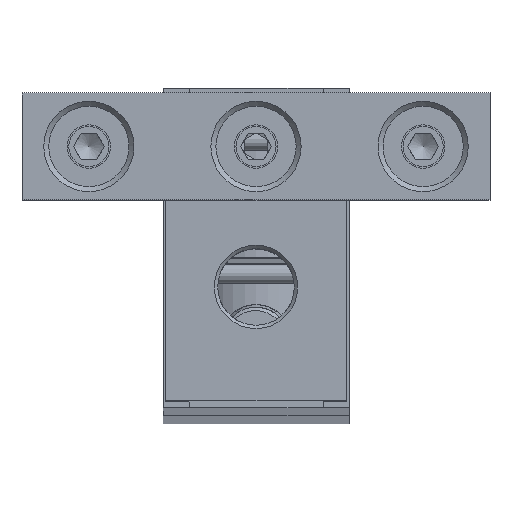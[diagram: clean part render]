
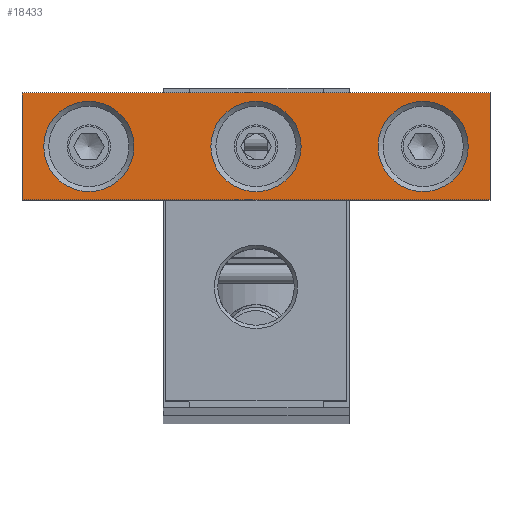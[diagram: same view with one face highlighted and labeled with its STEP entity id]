
A CAD part, top view. The second image highlights one B-rep face of the part: STEP entity #18433.
In plain terms, the highlighted planar face has unit normal (0, 0, 1).
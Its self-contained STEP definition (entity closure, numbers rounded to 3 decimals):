
#1223=LINE('',#35262,#2072);
#1256=LINE('',#35430,#2105);
#1259=LINE('',#35434,#2108);
#1261=LINE('',#35437,#2110);
#2072=VECTOR('',#25166,10.);
#2105=VECTOR('',#25337,10.);
#2108=VECTOR('',#25342,10.);
#2110=VECTOR('',#25346,10.);
#2865=FACE_BOUND('',#4798,.T.);
#2866=FACE_BOUND('',#4799,.T.);
#2867=FACE_BOUND('',#4800,.T.);
#3624=FACE_OUTER_BOUND('',#4797,.T.);
#4797=EDGE_LOOP('',(#14920,#14921,#14922,#14923));
#4798=EDGE_LOOP('',(#14924));
#4799=EDGE_LOOP('',(#14925));
#4800=EDGE_LOOP('',(#14926));
#6200=CIRCLE('',#20595,6.75);
#6202=CIRCLE('',#20599,6.75);
#6205=CIRCLE('',#20604,6.75);
#7935=VERTEX_POINT('',#35259);
#7936=VERTEX_POINT('',#35261);
#7979=VERTEX_POINT('',#35427);
#7980=VERTEX_POINT('',#35429);
#7983=VERTEX_POINT('',#35445);
#7985=VERTEX_POINT('',#35453);
#7988=VERTEX_POINT('',#35463);
#10333=EDGE_CURVE('',#7936,#7935,#1223,.T.);
#10408=EDGE_CURVE('',#7980,#7979,#1256,.T.);
#10411=EDGE_CURVE('',#7979,#7936,#1259,.T.);
#10413=EDGE_CURVE('',#7935,#7980,#1261,.T.);
#10417=EDGE_CURVE('',#7983,#7983,#6200,.T.);
#10421=EDGE_CURVE('',#7985,#7985,#6202,.T.);
#10426=EDGE_CURVE('',#7988,#7988,#6205,.T.);
#14920=ORIENTED_EDGE('',*,*,#10408,.T.);
#14921=ORIENTED_EDGE('',*,*,#10411,.T.);
#14922=ORIENTED_EDGE('',*,*,#10333,.T.);
#14923=ORIENTED_EDGE('',*,*,#10413,.T.);
#14924=ORIENTED_EDGE('',*,*,#10421,.F.);
#14925=ORIENTED_EDGE('',*,*,#10417,.F.);
#14926=ORIENTED_EDGE('',*,*,#10426,.F.);
#16585=PLANE('',#20603);
#18433=ADVANCED_FACE('',(#3624,#2865,#2866,#2867),#16585,.T.);
#20595=AXIS2_PLACEMENT_3D('',#35446,#25356,#25357);
#20599=AXIS2_PLACEMENT_3D('',#35454,#25366,#25367);
#20603=AXIS2_PLACEMENT_3D('',#35462,#25376,#25377);
#20604=AXIS2_PLACEMENT_3D('',#35464,#25378,#25379);
#25166=DIRECTION('',(-1.,0.,0.));
#25337=DIRECTION('',(1.,0.,0.));
#25342=DIRECTION('',(0.,1.,0.));
#25346=DIRECTION('',(0.,-1.,0.));
#25356=DIRECTION('center_axis',(0.,0.,
1.));
#25357=DIRECTION('ref_axis',(-1.,0.,0.));
#25366=DIRECTION('center_axis',(0.,0.,
1.));
#25367=DIRECTION('ref_axis',(-1.,0.,0.));
#25376=DIRECTION('center_axis',(0.,0.,
1.));
#25377=DIRECTION('ref_axis',(1.,0.,0.));
#25378=DIRECTION('center_axis',(0.,0.,
1.));
#25379=DIRECTION('ref_axis',(-1.,0.,0.));
#35259=CARTESIAN_POINT('',(-35.05,23.1,373.5));
#35261=CARTESIAN_POINT('',(34.95,23.1,373.5));
#35262=CARTESIAN_POINT('',(34.95,23.1,373.5));
#35427=CARTESIAN_POINT('',(34.95,7.1,373.5));
#35429=CARTESIAN_POINT('',(-35.05,7.1,373.5));
#35430=CARTESIAN_POINT('',(-35.05,7.1,373.5));
#35434=CARTESIAN_POINT('',(34.95,7.1,373.5));
#35437=CARTESIAN_POINT('',(-35.05,23.1,373.5));
#35445=CARTESIAN_POINT('',(-18.3,15.1,373.5));
#35446=CARTESIAN_POINT('Origin',(-25.05,15.1,373.5));
#35453=CARTESIAN_POINT('',(6.7,15.1,373.5));
#35454=CARTESIAN_POINT('Origin',(-0.05,15.1,373.5));
#35462=CARTESIAN_POINT('Origin',(-0.05,15.1,373.5));
#35463=CARTESIAN_POINT('',(31.7,15.1,373.5));
#35464=CARTESIAN_POINT('Origin',(24.95,15.1,373.5));
